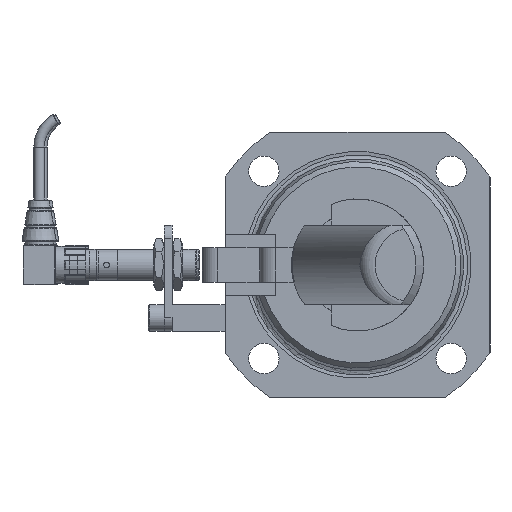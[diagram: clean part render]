
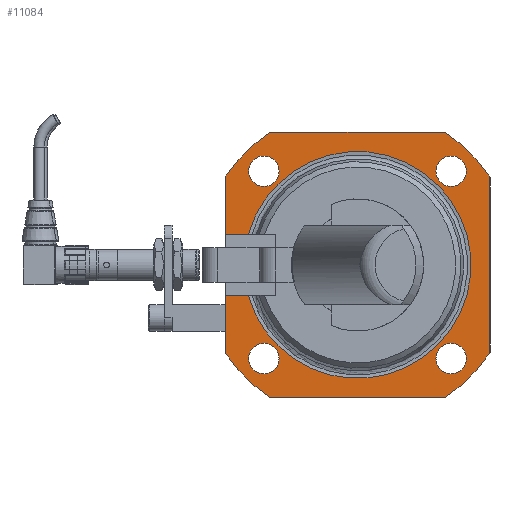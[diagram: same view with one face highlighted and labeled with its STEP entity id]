
A CAD part, left-side view. The second image highlights one B-rep face of the part: STEP entity #11084.
In plain terms, the highlighted planar face has unit normal (-1, 0, 0).
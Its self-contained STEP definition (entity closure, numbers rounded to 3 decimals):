
#463=LINE('',#17966,#1074);
#465=LINE('',#17977,#1076);
#467=LINE('',#17988,#1078);
#469=LINE('',#18001,#1080);
#470=LINE('',#18002,#1081);
#471=LINE('',#18004,#1082);
#472=LINE('',#18006,#1083);
#1074=VECTOR('',#14214,66.332);
#1076=VECTOR('',#14218,66.332);
#1078=VECTOR('',#14222,66.332);
#1080=VECTOR('',#14226,8.753);
#1081=VECTOR('',#14227,21.666);
#1082=VECTOR('',#14228,21.666);
#1083=VECTOR('',#14229,8.753);
#1656=PLANE('',#12094);
#2215=FACE_BOUND('',#3543,.T.);
#2216=FACE_BOUND('',#3544,.T.);
#2217=FACE_BOUND('',#3545,.T.);
#2218=FACE_BOUND('',#3546,.T.);
#2700=FACE_OUTER_BOUND('',#3542,.T.);
#3542=EDGE_LOOP('',(#8325,#8326,#8327,#8328,#8329,#8330,#8331,#8332,#8333,
#8334,#8335,#8336));
#3543=EDGE_LOOP('',(#8337));
#3544=EDGE_LOOP('',(#8338));
#3545=EDGE_LOOP('',(#8339));
#3546=EDGE_LOOP('',(#8340));
#4415=CIRCLE('',#12072,60.);
#4421=CIRCLE('',#12083,60.);
#4424=CIRCLE('',#12087,60.);
#4425=CIRCLE('',#12089,60.);
#4427=CIRCLE('',#12095,42.82);
#4428=CIRCLE('',#12096,5.75);
#4429=CIRCLE('',#12097,5.75);
#4430=CIRCLE('',#12098,5.75);
#4431=CIRCLE('',#12099,5.75);
#5196=VERTEX_POINT('',#17910);
#5199=VERTEX_POINT('',#17915);
#5209=VERTEX_POINT('',#17940);
#5210=VERTEX_POINT('',#17942);
#5212=VERTEX_POINT('',#17948);
#5215=VERTEX_POINT('',#17953);
#5217=VERTEX_POINT('',#17958);
#5218=VERTEX_POINT('',#17960);
#5226=VERTEX_POINT('',#17999);
#5227=VERTEX_POINT('',#18000);
#5228=VERTEX_POINT('',#18003);
#5229=VERTEX_POINT('',#18005);
#5230=VERTEX_POINT('',#18008);
#5231=VERTEX_POINT('',#18010);
#5232=VERTEX_POINT('',#18012);
#5233=VERTEX_POINT('',#18014);
#6368=EDGE_CURVE('',#5199,#5196,#4415,.T.);
#6378=EDGE_CURVE('',#5209,#5210,#4421,.T.);
#6384=EDGE_CURVE('',#5215,#5212,#4424,.T.);
#6386=EDGE_CURVE('',#5217,#5218,#4425,.T.);
#6389=EDGE_CURVE('',#5215,#5218,#463,.T.);
#6393=EDGE_CURVE('',#5199,#5212,#465,.T.);
#6397=EDGE_CURVE('',#5217,#5210,#467,.T.);
#6401=EDGE_CURVE('',#5226,#5227,#469,.T.);
#6402=EDGE_CURVE('',#5227,#5196,#470,.T.);
#6403=EDGE_CURVE('',#5209,#5228,#471,.T.);
#6404=EDGE_CURVE('',#5228,#5229,#472,.T.);
#6405=EDGE_CURVE('',#5229,#5226,#4427,.T.);
#6406=EDGE_CURVE('',#5230,#5230,#4428,.T.);
#6407=EDGE_CURVE('',#5231,#5231,#4429,.T.);
#6408=EDGE_CURVE('',#5232,#5232,#4430,.T.);
#6409=EDGE_CURVE('',#5233,#5233,#4431,.T.);
#8325=ORIENTED_EDGE('',*,*,#6401,.T.);
#8326=ORIENTED_EDGE('',*,*,#6402,.T.);
#8327=ORIENTED_EDGE('',*,*,#6368,.F.);
#8328=ORIENTED_EDGE('',*,*,#6393,.T.);
#8329=ORIENTED_EDGE('',*,*,#6384,.F.);
#8330=ORIENTED_EDGE('',*,*,#6389,.T.);
#8331=ORIENTED_EDGE('',*,*,#6386,.F.);
#8332=ORIENTED_EDGE('',*,*,#6397,.T.);
#8333=ORIENTED_EDGE('',*,*,#6378,.F.);
#8334=ORIENTED_EDGE('',*,*,#6403,.T.);
#8335=ORIENTED_EDGE('',*,*,#6404,.T.);
#8336=ORIENTED_EDGE('',*,*,#6405,.T.);
#8337=ORIENTED_EDGE('',*,*,#6406,.T.);
#8338=ORIENTED_EDGE('',*,*,#6407,.T.);
#8339=ORIENTED_EDGE('',*,*,#6408,.T.);
#8340=ORIENTED_EDGE('',*,*,#6409,.T.);
#11084=ADVANCED_FACE('',(#2700,#2215,#2216,#2217,#2218),#1656,.T.);
#12072=AXIS2_PLACEMENT_3D('',#17917,#14165,#14166);
#12083=AXIS2_PLACEMENT_3D('',#17943,#14191,#14192);
#12087=AXIS2_PLACEMENT_3D('',#17955,#14202,#14203);
#12089=AXIS2_PLACEMENT_3D('',#17961,#14207,#14208);
#12094=AXIS2_PLACEMENT_3D('',#17998,#14224,#14225);
#12095=AXIS2_PLACEMENT_3D('',#18007,#14230,#14231);
#12096=AXIS2_PLACEMENT_3D('',#18009,#14232,#14233);
#12097=AXIS2_PLACEMENT_3D('',#18011,#14234,#14235);
#12098=AXIS2_PLACEMENT_3D('',#18013,#14236,#14237);
#12099=AXIS2_PLACEMENT_3D('',#18015,#14238,#14239);
#14165=DIRECTION('center_axis',(1.,0.,0.));
#14166=DIRECTION('ref_axis',(0.,1.,0.));
#14191=DIRECTION('center_axis',(1.,0.,0.));
#14192=DIRECTION('ref_axis',(0.,1.,0.));
#14202=DIRECTION('center_axis',(1.,0.,0.));
#14203=DIRECTION('ref_axis',(0.,1.,0.));
#14207=DIRECTION('center_axis',(1.,0.,0.));
#14208=DIRECTION('ref_axis',(0.,1.,0.));
#14214=DIRECTION('',(0.,0.,1.));
#14218=DIRECTION('',(0.,-1.,0.));
#14222=DIRECTION('',(0.,1.,0.));
#14224=DIRECTION('center_axis',(-1.,0.,0.));
#14225=DIRECTION('ref_axis',(0.,0.,1.));
#14226=DIRECTION('',(0.,1.,0.));
#14227=DIRECTION('',(0.,0.,-1.));
#14228=DIRECTION('',(0.,0.,-1.));
#14229=DIRECTION('',(0.,-1.,0.));
#14230=DIRECTION('center_axis',(1.,0.,0.));
#14231=DIRECTION('ref_axis',(0.,1.,0.));
#14232=DIRECTION('center_axis',(1.,0.,0.));
#14233=DIRECTION('ref_axis',(0.,1.,0.));
#14234=DIRECTION('center_axis',(1.,0.,0.));
#14235=DIRECTION('ref_axis',(0.,0.,
-1.));
#14236=DIRECTION('center_axis',(1.,0.,0.));
#14237=DIRECTION('ref_axis',(0.,-1.,0.));
#14238=DIRECTION('center_axis',(1.,0.,0.));
#14239=DIRECTION('ref_axis',(0.,0.,1.));
#17910=CARTESIAN_POINT('',(-154.943,290.455,-65.449));
#17915=CARTESIAN_POINT('',(-154.943,273.621,-82.283));
#17917=CARTESIAN_POINT('Origin',(-154.943,240.455,-32.283));
#17940=CARTESIAN_POINT('',(-154.943,290.455,0.883));
#17942=CARTESIAN_POINT('',(-154.943,273.621,17.717));
#17943=CARTESIAN_POINT('Origin',(-154.943,240.455,-32.283));
#17948=CARTESIAN_POINT('',(-154.943,207.289,-82.283));
#17953=CARTESIAN_POINT('',(-154.943,190.455,-65.449));
#17955=CARTESIAN_POINT('Origin',(-154.943,240.455,-32.283));
#17958=CARTESIAN_POINT('',(-154.943,207.289,17.717));
#17960=CARTESIAN_POINT('',(-154.943,190.455,0.883));
#17961=CARTESIAN_POINT('Origin',(-154.943,240.455,-32.283));
#17966=CARTESIAN_POINT('',(-154.943,190.455,-15.7));
#17977=CARTESIAN_POINT('',(-154.943,249.577,-82.283));
#17988=CARTESIAN_POINT('',(-154.943,282.743,17.717));
#17998=CARTESIAN_POINT('Origin',(-154.943,291.865,-32.283));
#17999=CARTESIAN_POINT('',(-154.943,281.702,-43.783));
#18000=CARTESIAN_POINT('',(-154.943,290.455,-43.783));
#18001=CARTESIAN_POINT('',(-154.943,291.16,-43.783));
#18002=CARTESIAN_POINT('',(-154.943,290.455,-48.866));
#18003=CARTESIAN_POINT('',(-154.943,290.455,-20.783));
#18004=CARTESIAN_POINT('',(-154.943,290.455,-48.866));
#18005=CARTESIAN_POINT('',(-154.943,281.702,-20.783));
#18006=CARTESIAN_POINT('',(-154.943,291.16,-20.783));
#18007=CARTESIAN_POINT('Origin',(-154.943,240.455,-32.283));
#18008=CARTESIAN_POINT('',(-154.943,210.85,-67.639));
#18009=CARTESIAN_POINT('Origin',(-154.943,205.1,-67.639));
#18010=CARTESIAN_POINT('',(-154.943,205.1,-2.678));
#18011=CARTESIAN_POINT('Origin',(-154.943,205.1,3.072));
#18012=CARTESIAN_POINT('',(-154.943,270.06,3.072));
#18013=CARTESIAN_POINT('Origin',(-154.943,275.81,3.072));
#18014=CARTESIAN_POINT('',(-154.943,275.81,-61.889));
#18015=CARTESIAN_POINT('Origin',(-154.943,275.81,-67.639));
